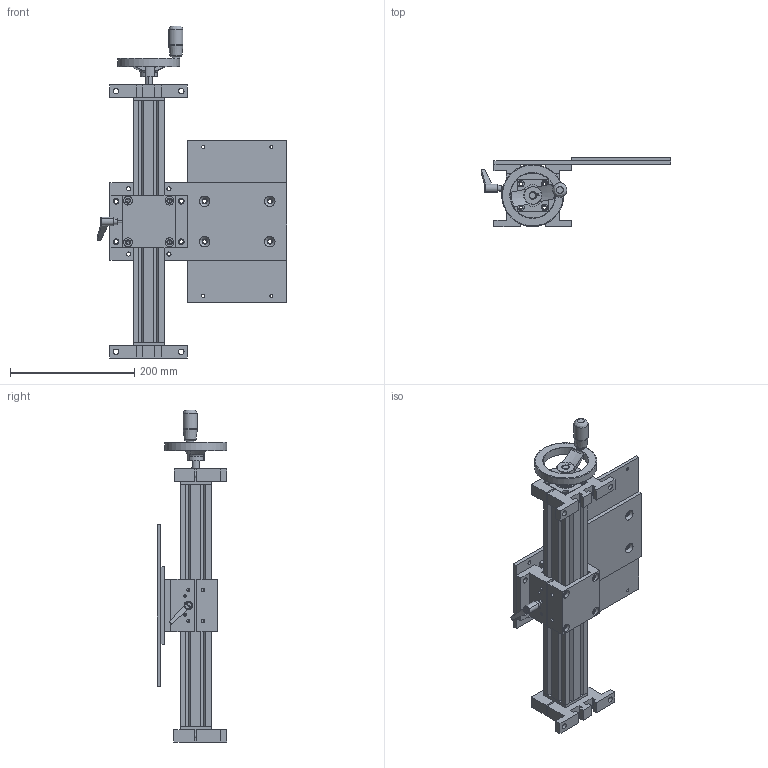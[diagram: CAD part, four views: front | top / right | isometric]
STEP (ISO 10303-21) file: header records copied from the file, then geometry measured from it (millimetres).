
FILE_DESCRIPTION(/* description */ ('Alibre Inc.'),/* implementation_level */ '2;1');
FILE_NAME(/* name */ 'export1',/* time_stamp */ '2015-11-12T14:56:26+01:00',/* author */ (''),/* organization */ (''),/* preprocessor_version */ 'ST-DEVELOPER v14',/* originating_system */ 'Alibre',/* authorisation */ '');
FILE_SCHEMA (('CONFIG_CONTROL_DESIGN'));
Length unit declared in the file: millimetre
Products named in the file (20): ID_1; ID_2; ID_3; ID_4; ID_5; ID_6; ID_7; ID_8; ID_9; ID_10; ID_11; ID_12; ID_13; ID_14; ID_15; ID_16; ID_17; ID_18
Bounding box: 305.7 x 112.2 x 535 mm (x, y, z)
Volume: 1783273.2 mm3; surface area: 574733.2 mm2
Topology: 18 solids, 18 shells, 736 faces, 1881 edges, 1231 vertices
Faces by surface type: plane 368, cylinder 300, cone 41, torus 25, bspline 2
Full cylindrical faces by diameter (mm): 4.917 x5, 6.647 x16, 8 x4, 9 x8, 13 x5, 13.5 x4, 23 x1, 100 x1
Entity records: 21312 total; most frequent: CARTESIAN_POINT 3870, DIRECTION 3085, ORIENTED_EDGE 3072, EDGE_CURVE 1536, AXIS2_PLACEMENT_3D 1271, VERTEX_POINT 1037, EDGE_LOOP 869, FACE_BOUND 869
